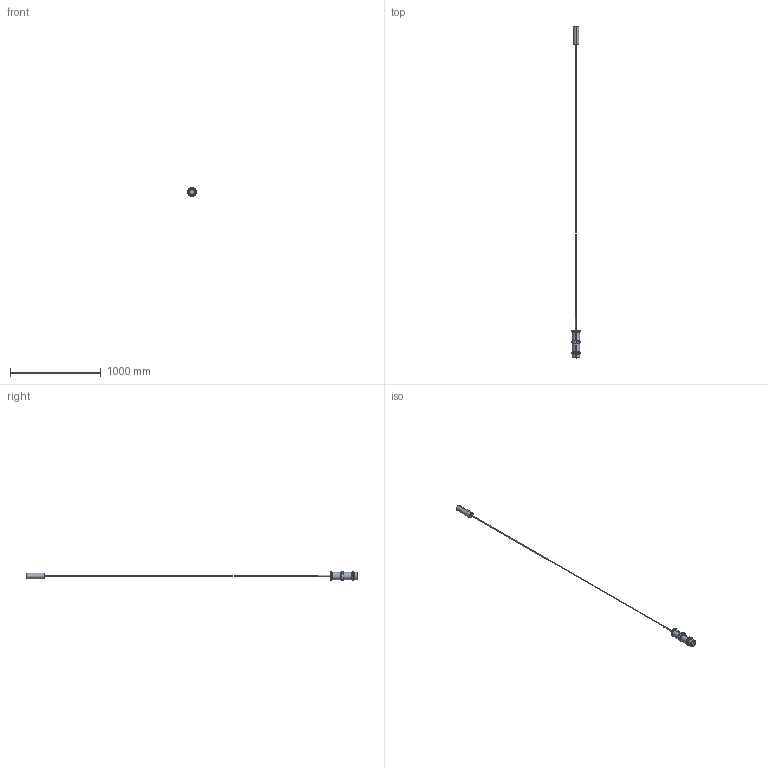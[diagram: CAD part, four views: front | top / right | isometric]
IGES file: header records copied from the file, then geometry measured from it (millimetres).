
Start section: SolidWorks IGES file using analytic representation for surfaces
Global section: file name: C:\Users\Agus\Desktop\Maider\C1319-S\C1319-S_CANNA.IGS; native system: SolidWorks 2018; preprocessor: SolidWorks 2018; author: Agus; date: 231103.094431; units: millimetre
Bounding box: 98.96 x 3665 x 99.93 mm (x, y, z)
Surface area: 331609.8 mm2 (no closed solid volume)
Topology: 0 solids, 0 shells, 54 faces, 992 edges, 992 vertices
Faces by surface type: bspline 34, revolution 20
